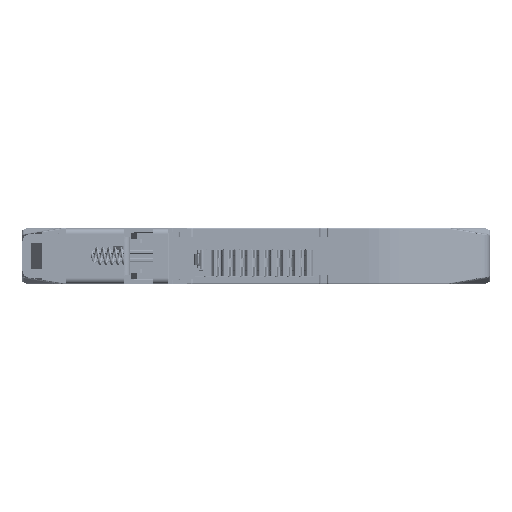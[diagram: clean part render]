
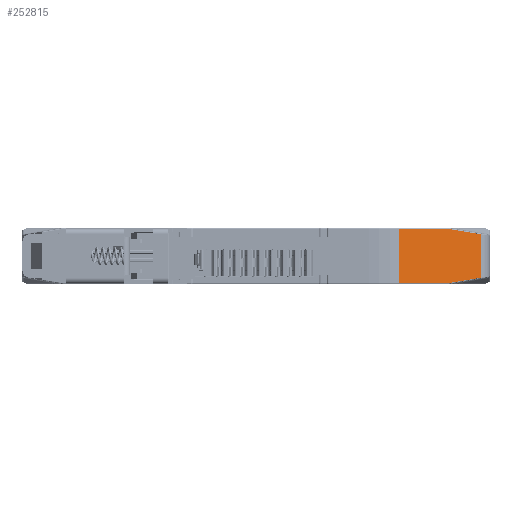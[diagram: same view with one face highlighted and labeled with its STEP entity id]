
A CAD part, front view. The second image highlights one B-rep face of the part: STEP entity #252815.
In plain terms, the highlighted planar face has unit normal (0.326, -0.946, 0).
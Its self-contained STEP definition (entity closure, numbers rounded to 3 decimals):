
#28273=DIRECTION('',(0.,0.,1.));
#28274=VECTOR('',#28273,9.291);
#28275=CARTESIAN_POINT('',(93.227,-2.698,
-1.445));
#28276=LINE('',#28275,#28274);
#28277=CARTESIAN_POINT('',(93.227,-2.698,
7.845));
#28405=CARTESIAN_POINT('',(93.227,-2.698,
-1.445));
#28407=DIRECTION('',(0.946,0.326,0.));
#28408=VECTOR('',#28407,10.873);
#28409=CARTESIAN_POINT('',(75.911,-8.66,9.));
#28410=LINE('',#28409,#28408);
#28411=CARTESIAN_POINT('',(86.191,-5.121,9.));
#28412=CARTESIAN_POINT('',(86.203,-5.116,
9.));
#28413=CARTESIAN_POINT('',(86.227,-5.108,
9.));
#28414=CARTESIAN_POINT('',(86.263,-5.096,
8.998));
#28415=CARTESIAN_POINT('',(86.298,-5.084,
8.996));
#28416=CARTESIAN_POINT('',(86.334,-5.071,
8.992));
#28417=CARTESIAN_POINT('',(86.369,-5.059,
8.988));
#28418=CARTESIAN_POINT('',(86.393,-5.051,
8.984));
#28419=CARTESIAN_POINT('',(86.405,-5.047,
8.982));
#28421=DIRECTION('',(0.934,0.322,-0.156));
#28422=VECTOR('',#28421,5.994);
#28423=CARTESIAN_POINT('',(86.405,-5.047,
8.982));
#28424=LINE('',#28423,#28422);
#28425=DIRECTION('',(0.,0.,1.));
#28426=VECTOR('',#28425,0.011);
#28427=CARTESIAN_POINT('',(92.003,-3.119,
8.038));
#28428=LINE('',#28427,#28426);
#28429=DIRECTION('',(-0.934,-0.322,0.156));
#28430=VECTOR('',#28429,0.506);
#28431=CARTESIAN_POINT('',(92.475,-2.957,
7.96));
#28432=LINE('',#28431,#28430);
#28433=DIRECTION('',(0.,0.,1.));
#28434=VECTOR('',#28433,0.011);
#28435=CARTESIAN_POINT('',(92.475,-2.957,
7.96));
#28436=LINE('',#28435,#28434);
#28437=DIRECTION('',(0.934,0.322,-0.156));
#28438=VECTOR('',#28437,0.804);
#28439=CARTESIAN_POINT('',(92.475,-2.957,
7.971));
#28440=LINE('',#28439,#28438);
#28441=DIRECTION('',(-0.934,-0.322,-0.156));
#28442=VECTOR('',#28441,0.804);
#28443=CARTESIAN_POINT('',(93.227,-2.698,
-1.445));
#28444=LINE('',#28443,#28442);
#28445=DIRECTION('',(0.,0.,-1.));
#28446=VECTOR('',#28445,0.011);
#28447=CARTESIAN_POINT('',(92.475,-2.957,
-1.56));
#28448=LINE('',#28447,#28446);
#28449=DIRECTION('',(-0.934,-0.322,-0.156));
#28450=VECTOR('',#28449,0.506);
#28451=CARTESIAN_POINT('',(92.475,-2.957,
-1.56));
#28452=LINE('',#28451,#28450);
#28453=DIRECTION('',(0.,0.,-1.));
#28454=VECTOR('',#28453,0.011);
#28455=CARTESIAN_POINT('',(92.003,-3.119,
-1.638));
#28456=LINE('',#28455,#28454);
#28457=DIRECTION('',(-0.934,-0.322,-0.156));
#28458=VECTOR('',#28457,5.994);
#28459=CARTESIAN_POINT('',(92.003,-3.119,
-1.649));
#28460=LINE('',#28459,#28458);
#28461=CARTESIAN_POINT('',(86.405,-5.047,
-2.582));
#28462=CARTESIAN_POINT('',(86.393,-5.051,
-2.584));
#28463=CARTESIAN_POINT('',(86.369,-5.059,
-2.588));
#28464=CARTESIAN_POINT('',(86.334,-5.071,
-2.592));
#28465=CARTESIAN_POINT('',(86.298,-5.084,
-2.596));
#28466=CARTESIAN_POINT('',(86.263,-5.096,
-2.598));
#28467=CARTESIAN_POINT('',(86.227,-5.108,
-2.6));
#28468=CARTESIAN_POINT('',(86.203,-5.116,
-2.6));
#28469=CARTESIAN_POINT('',(86.191,-5.121,-2.6));
#28471=DIRECTION('',(-0.946,-0.326,0.));
#28472=VECTOR('',#28471,10.873);
#28473=CARTESIAN_POINT('',(86.191,-5.121,-2.6));
#28474=LINE('',#28473,#28472);
#28484=DIRECTION('',(0.,0.,-1.));
#28485=VECTOR('',#28484,11.6);
#28486=CARTESIAN_POINT('',(75.911,-8.66,9.));
#28487=LINE('',#28486,#28485);
#205984=CARTESIAN_POINT('',(86.191,-5.121,-2.6));
#205985=CARTESIAN_POINT('',(75.911,-8.66,-2.6));
#205986=VERTEX_POINT('',#205984);
#205987=VERTEX_POINT('',#205985);
#205989=VERTEX_POINT('',#28461);
#205993=VERTEX_POINT('',#28405);
#208057=CARTESIAN_POINT('',(92.475,-2.957,
-1.56));
#208058=CARTESIAN_POINT('',(92.003,-3.119,
-1.638));
#208059=VERTEX_POINT('',#208057);
#208060=VERTEX_POINT('',#208058);
#208061=CARTESIAN_POINT('',(92.003,-3.119,
-1.649));
#208062=VERTEX_POINT('',#208061);
#208063=CARTESIAN_POINT('',(92.475,-2.957,
-1.571));
#208064=VERTEX_POINT('',#208063);
#215763=VERTEX_POINT('',#28277);
#215766=VERTEX_POINT('',#28411);
#215767=VERTEX_POINT('',#28419);
#215770=CARTESIAN_POINT('',(75.911,-8.66,9.));
#215771=VERTEX_POINT('',#215770);
#216926=CARTESIAN_POINT('',(92.475,-2.957,
7.96));
#216927=CARTESIAN_POINT('',(92.003,-3.119,
8.038));
#216928=VERTEX_POINT('',#216926);
#216929=VERTEX_POINT('',#216927);
#216930=CARTESIAN_POINT('',(92.003,-3.119,
8.049));
#216931=VERTEX_POINT('',#216930);
#216932=CARTESIAN_POINT('',(92.475,-2.957,
7.971));
#216933=VERTEX_POINT('',#216932);
#252777=CARTESIAN_POINT('',(75.911,-8.66,8.1));
#252778=DIRECTION('',(0.326,-0.946,0.));
#252779=DIRECTION('',(0.946,0.326,0.));
#252780=AXIS2_PLACEMENT_3D('',#252777,#252778,#252779);
#252781=PLANE('',#252780);
#252783=ORIENTED_EDGE('',*,*,#252782,.F.);
#252785=ORIENTED_EDGE('',*,*,#252784,.T.);
#252787=ORIENTED_EDGE('',*,*,#252786,.T.);
#252789=ORIENTED_EDGE('',*,*,#252788,.T.);
#252791=ORIENTED_EDGE('',*,*,#252790,.F.);
#252793=ORIENTED_EDGE('',*,*,#252792,.F.);
#252795=ORIENTED_EDGE('',*,*,#252794,.T.);
#252797=ORIENTED_EDGE('',*,*,#252796,.T.);
#252798=ORIENTED_EDGE('',*,*,#252763,.F.);
#252800=ORIENTED_EDGE('',*,*,#252799,.T.);
#252802=ORIENTED_EDGE('',*,*,#252801,.F.);
#252804=ORIENTED_EDGE('',*,*,#252803,.T.);
#252806=ORIENTED_EDGE('',*,*,#252805,.T.);
#252808=ORIENTED_EDGE('',*,*,#252807,.T.);
#252810=ORIENTED_EDGE('',*,*,#252809,.T.);
#252812=ORIENTED_EDGE('',*,*,#252811,.T.);
#252813=EDGE_LOOP('',(#252783,#252785,#252787,#252789,#252791,#252793,#252795,
#252797,#252798,#252800,#252802,#252804,#252806,#252808,#252810,#252812));
#252814=FACE_OUTER_BOUND('',#252813,.F.);
#252815=ADVANCED_FACE('',(#252814),#252781,.T.);
#28420=B_SPLINE_CURVE_WITH_KNOTS('',3,(#28411,#28412,#28413,#28414,#28415,
#28416,#28417,#28418,#28419),.UNSPECIFIED.,.F.,.F.,(4,1,1,1,1,1,4),(0.,
0.167,0.333,0.5,0.667,0.833,
1.),.UNSPECIFIED.);
#28470=B_SPLINE_CURVE_WITH_KNOTS('',3,(#28461,#28462,#28463,#28464,#28465,
#28466,#28467,#28468,#28469),.UNSPECIFIED.,.F.,.F.,(4,1,1,1,1,1,4),(0.,
0.167,0.333,0.5,0.667,0.833,
1.),.UNSPECIFIED.);
#252763=EDGE_CURVE('',#205993,#215763,#28276,.T.);
#252782=EDGE_CURVE('',#215771,#205987,#28487,.T.);
#252784=EDGE_CURVE('',#215771,#215766,#28410,.T.);
#252786=EDGE_CURVE('',#215766,#215767,#28420,.T.);
#252788=EDGE_CURVE('',#215767,#216931,#28424,.T.);
#252790=EDGE_CURVE('',#216929,#216931,#28428,.T.);
#252792=EDGE_CURVE('',#216928,#216929,#28432,.T.);
#252794=EDGE_CURVE('',#216928,#216933,#28436,.T.);
#252796=EDGE_CURVE('',#216933,#215763,#28440,.T.);
#252799=EDGE_CURVE('',#205993,#208064,#28444,.T.);
#252801=EDGE_CURVE('',#208059,#208064,#28448,.T.);
#252803=EDGE_CURVE('',#208059,#208060,#28452,.T.);
#252805=EDGE_CURVE('',#208060,#208062,#28456,.T.);
#252807=EDGE_CURVE('',#208062,#205989,#28460,.T.);
#252809=EDGE_CURVE('',#205989,#205986,#28470,.T.);
#252811=EDGE_CURVE('',#205986,#205987,#28474,.T.);
